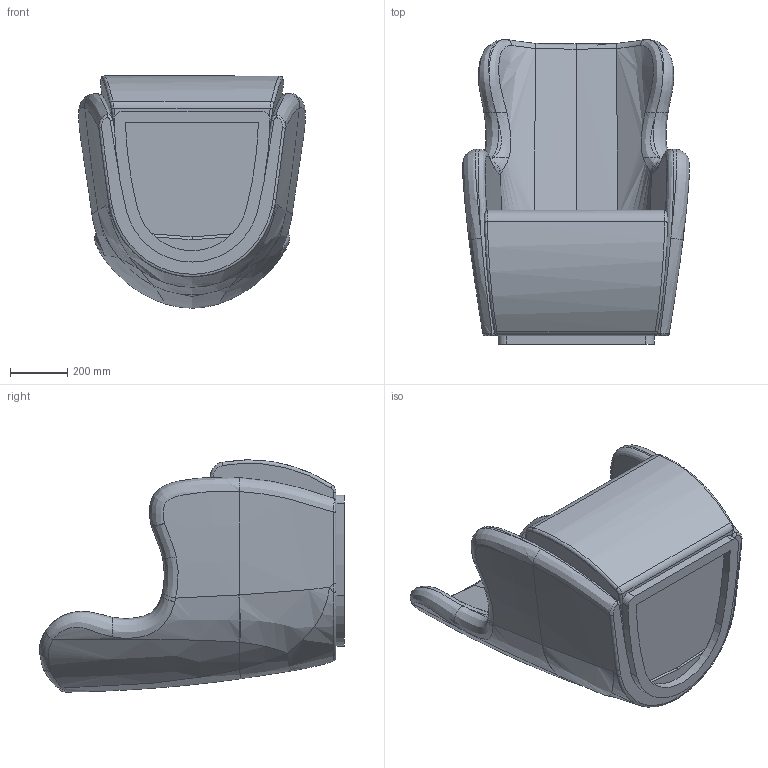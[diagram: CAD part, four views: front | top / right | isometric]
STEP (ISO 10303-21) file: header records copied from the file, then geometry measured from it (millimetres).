
FILE_DESCRIPTION (( 'STEP AP203' ), '1' );
FILE_NAME ('GIBSON PLUS high back (simple).STEP', '2026-07-14T07:40:28', ( '' ), ( '' ), 'SwSTEP 2.0', 'SolidWorks 2026', '' );
FILE_SCHEMA (( 'CONFIG_CONTROL_DESIGN' ));
Length unit declared in the file: millimetre
Products named in the file (1): GIBSON PLUS high back (simple)
Bounding box: 796.3 x 1070.01 x 814.73 mm (x, y, z)
Volume: 247612480.6 mm3; surface area: 5050370.5 mm2
Topology: 3 solids, 3 shells, 173 faces, 449 edges, 275 vertices
Faces by surface type: bspline 138, plane 18, cylinder 17
Entity records: 25788 total; most frequent: CARTESIAN_POINT 22663, ORIENTED_EDGE 884, EDGE_CURVE 442, B_SPLINE_CURVE_WITH_KNOTS 309, VERTEX_POINT 275, DIRECTION 250, EDGE_LOOP 175, FACE_OUTER_BOUND 173
